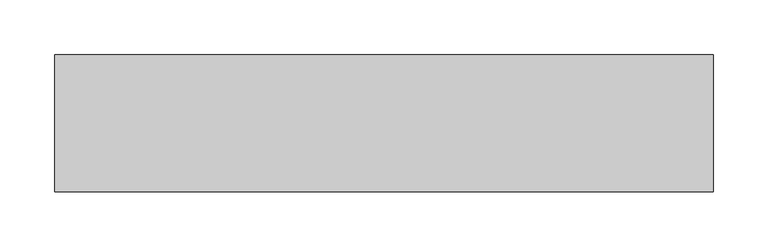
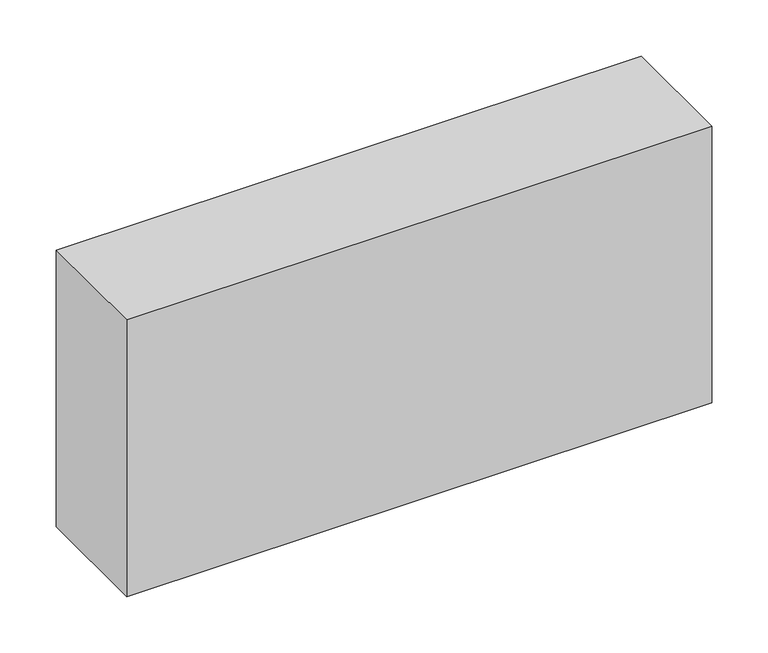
"""IFC4 building model written with IfcOpenShell, lengths in millimetres: proxy geometry, Módulo de Vedação de Concreto Celular - Celucon : MVCC 12,5x30x60cm (L x A x C)."""

from ifc_helpers import new_model, si_unit, origin, origin_with_axes, place, context, project, spatial, polyline, outline, extrude, source, transform, mapped, element, save


def generic_models_adb0b913(model_context):
    return source(origin(), model_context, "Body", "SweptSolid", [
        extrude(outline(polyline([(300.0, 62.5), (300.0, -62.5), (-300.0, -62.5), (-300.0, 62.5), (300.0, 62.5)])), origin_with_axes(), (0.0, 0.0, 1.0), 300.0),
    ])


if __name__ == "__main__":
    model = new_model("IFC4")
    model_context = context("Model", 3, world=origin())
    ifc_project = project(units=[si_unit("LENGTHUNIT", "METRE", prefix="MILLI")], contexts=[model_context])
    site = spatial("IfcSite", under=ifc_project)
    building = spatial("IfcBuilding", under=site)
    placement = place(None, origin())
    generic_models_shape = generic_models_adb0b913(model_context)
    element("IfcBuildingElementProxy", 1, Name="Módulo de Vedação de Concreto Celular - Celucon : MVCC 12,5x30x60cm (L x A x C)", ObjectType="Módulo de Vedação de Concreto Celular - Celucon : MVCC 12,5x30x60cm (L x A x C)", at=placement, inside=building, context=model_context, shape_type="MappedRepresentation", body=[
        mapped(generic_models_shape, transform((0.0, 0.0, 0.0), x_axis=(1.0, 0.0, 0.0), y_axis=(0.0, 1.0, 0.0), z_axis=(0.0, 0.0, 1.0))),
    ])
    save(model, "model.ifc")
